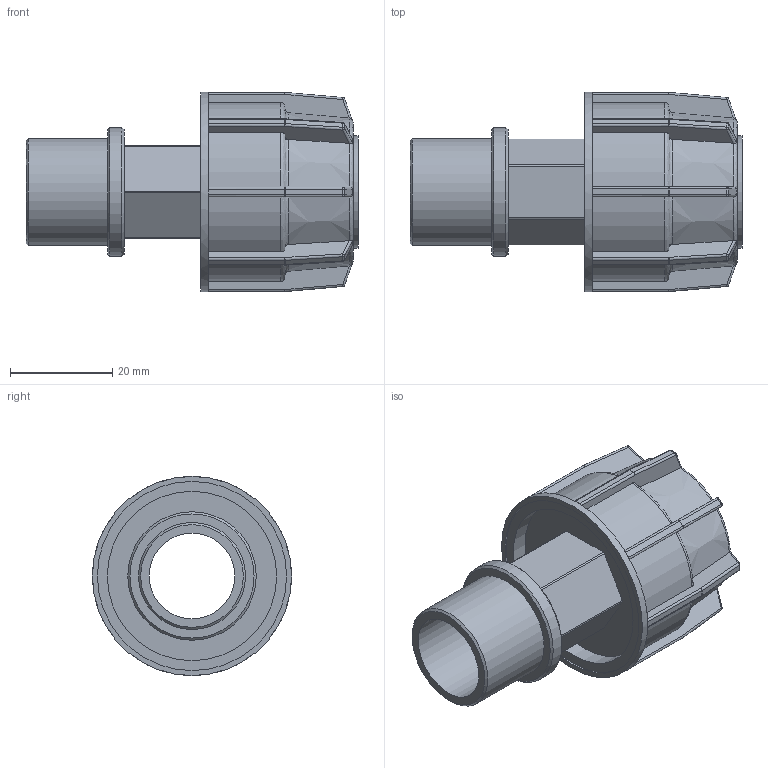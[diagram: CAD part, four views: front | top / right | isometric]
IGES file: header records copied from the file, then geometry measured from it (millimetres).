
Global section: file name: 040207020005.ipt; native system: Autodesk Inventor 2015; preprocessor: unknown; author: KIM; date: 20180409.130624; units: millimetre
Bounding box: 65 x 39 x 39 mm (x, y, z)
Volume: 19809.3 mm3; surface area: 13099.2 mm2
Topology: 1 solids, 1 shells, 283 faces, 662 edges, 388 vertices
Faces by surface type: plane 142, cylinder 76, sphere 32, revolution 22, cone 11
Full cylindrical faces by diameter (mm): 20.955 x1, 22 x1, 25.146 x1, 39 x1
